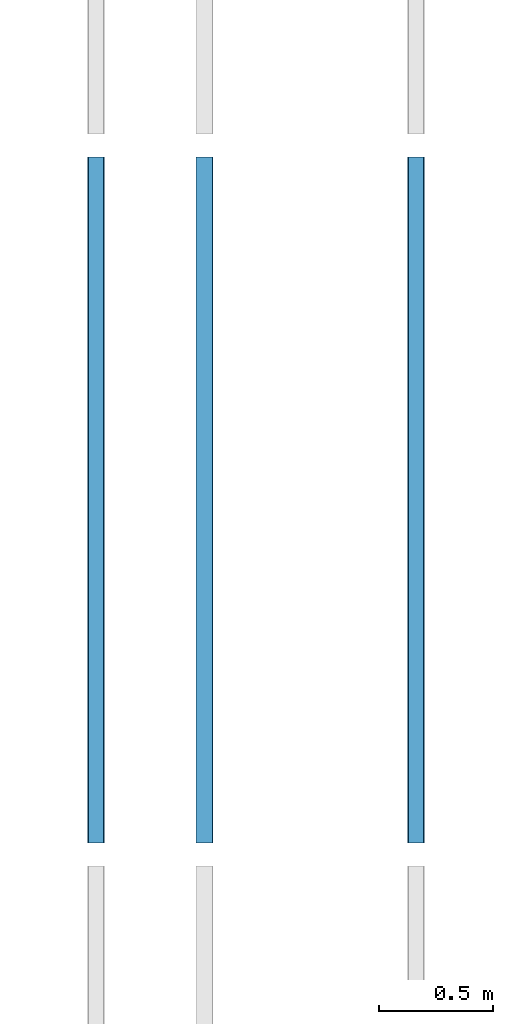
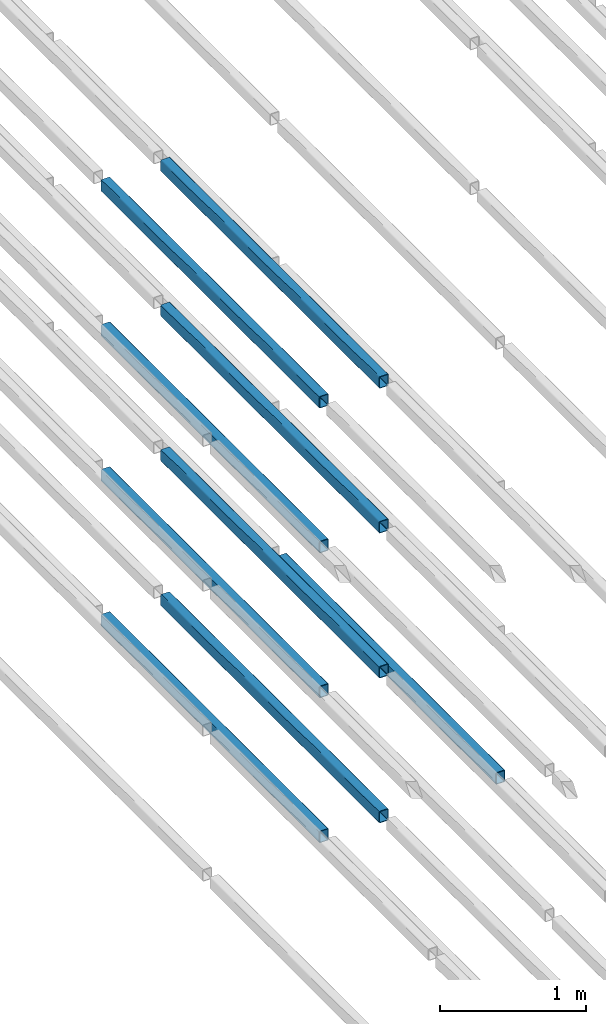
# One storey, part 67 of 290: 9 beams.
"""IFC2X3 building model written with IfcOpenShell, lengths in metres."""

from ifc_helpers import new_model, entity, si_unit, converted_unit, derived_unit, direction, frame, frame_2d, origin, place, context, subcontext, project, spatial, polyline, circle_curve, parameter, trimmed, segment, composite_curve, outline, extrude, material, type_object, element, save


model = new_model("IFC2X3")

# Units and contexts
model_context = context("Model", 3, precision=1e-05, world=origin(), true_north=direction((6.12303176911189e-17, 1.0)))
body_context = subcontext(model_context, "Body", "Model", "MODEL_VIEW")
ifc_project = project(units=[si_unit("LENGTHUNIT", "METRE"), si_unit("AREAUNIT", "SQUARE_METRE"), si_unit("VOLUMEUNIT", "CUBIC_METRE"), converted_unit("PLANEANGLEUNIT", "DEGREE", entity("IfcRatioMeasure", 0.0174532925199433), si_unit("PLANEANGLEUNIT", "RADIAN"), dimensions=[0, 0, 0, 0, 0, 0, 0]), si_unit("MASSUNIT", "GRAM", prefix="KILO"), derived_unit("MASSDENSITYUNIT", [(si_unit("MASSUNIT", "GRAM", prefix="KILO"), 1), (si_unit("LENGTHUNIT", "METRE"), -3)]), derived_unit("MOMENTOFINERTIAUNIT", [(si_unit("LENGTHUNIT", "METRE"), 4)]), si_unit("TIMEUNIT", "SECOND"), si_unit("FREQUENCYUNIT", "HERTZ"), si_unit("THERMODYNAMICTEMPERATUREUNIT", "DEGREE_CELSIUS"), derived_unit("THERMALTRANSMITTANCEUNIT", [(si_unit("MASSUNIT", "GRAM", prefix="KILO"), 1), (si_unit("THERMODYNAMICTEMPERATUREUNIT", "KELVIN"), -1), (si_unit("TIMEUNIT", "SECOND"), -3)]), derived_unit("VOLUMETRICFLOWRATEUNIT", [(si_unit("LENGTHUNIT", "METRE"), 3), (si_unit("TIMEUNIT", "SECOND"), -1)]), si_unit("ELECTRICCURRENTUNIT", "AMPERE"), si_unit("ELECTRICVOLTAGEUNIT", "VOLT"), si_unit("POWERUNIT", "WATT"), si_unit("FORCEUNIT", "NEWTON", prefix="KILO"), si_unit("ILLUMINANCEUNIT", "LUX"), si_unit("LUMINOUSFLUXUNIT", "LUMEN"), si_unit("LUMINOUSINTENSITYUNIT", "CANDELA"), derived_unit("USERDEFINED", [(si_unit("MASSUNIT", "GRAM", prefix="KILO"), -1), (si_unit("LENGTHUNIT", "METRE"), -2), (si_unit("TIMEUNIT", "SECOND"), 3), (si_unit("LUMINOUSFLUXUNIT", "LUMEN"), 1)]), derived_unit("LINEARVELOCITYUNIT", [(si_unit("LENGTHUNIT", "METRE"), 1), (si_unit("TIMEUNIT", "SECOND"), -1)]), si_unit("PRESSUREUNIT", "PASCAL"), derived_unit("USERDEFINED", [(si_unit("LENGTHUNIT", "METRE"), -2), (si_unit("MASSUNIT", "GRAM", prefix="KILO"), 1), (si_unit("TIMEUNIT", "SECOND"), -2)]), derived_unit("LINEARFORCEUNIT", [(si_unit("MASSUNIT", "GRAM", prefix="KILO"), 1), (si_unit("LENGTHUNIT", "METRE"), 1), (si_unit("TIMEUNIT", "SECOND"), -2), (si_unit("LENGTHUNIT", "METRE"), -1)]), derived_unit("PLANARFORCEUNIT", [(si_unit("MASSUNIT", "GRAM", prefix="KILO"), 1), (si_unit("LENGTHUNIT", "METRE"), 1), (si_unit("TIMEUNIT", "SECOND"), -2), (si_unit("LENGTHUNIT", "METRE"), -2)])], contexts=[model_context])

# Site, building, storey
site_placement = place(None, origin())
site = spatial("IfcSite", under=ifc_project, at=site_placement, Name="Default", CompositionType="ELEMENT")
building_placement = place(site_placement, origin())
building = spatial("IfcBuilding", under=site, at=building_placement, CompositionType="ELEMENT")
storey_placement = place(building_placement, frame((0.0, 0.0, 4.0)))
storey = spatial("IfcBuildingStorey", under=building, at=storey_placement, Name="01_OG", CompositionType="ELEMENT", Elevation=4.0)

# Beams
ifc_material = material(Name="Metall - Baustahl S235 blau")
beam_type = type_object("IfcBeamType", Name="RHS Träger (EN 10219-2):RHS 100 x 75 x 5", PredefinedType="NOTDEFINED")
beam_1_placement = place(storey_placement, frame((-189.865111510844, 42.648088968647, -1.2), z_axis=(0.0, 0.0, 1.0), x_axis=(0.0, 1.0, 0.0)))
element("IfcBeam", 1, at=beam_1_placement, inside=storey, type_object=beam_type, material=ifc_material, Name="RHS Träger (EN 10219-2):RHS 100 x 75 x 5", ObjectType="RHS Träger (EN 10219-2):RHS 100 x 75 x 5", context=body_context, shape_type="SweptSolid", body=[
    extrude(outline(composite_curve([segment(polyline([(-0.0400000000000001, -0.0375000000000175), (0.0400000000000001, -0.0375000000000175)]), True, "CONTINUOUS"), segment(trimmed(circle_curve(frame_2d((0.0400000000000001, -0.0275000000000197), x_axis=(0.0, 1.0)), 0.01), [parameter(180.0)], [parameter(270.0)], True, "PARAMETER"), True, "CONTINUOUS"), segment(polyline([(0.05, -0.0275000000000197), (0.05, 0.0274999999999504)]), True, "CONTINUOUS"), segment(trimmed(circle_curve(frame_2d((0.0400000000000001, 0.0274999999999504), x_axis=(0.0, 1.0)), 0.01), [parameter(270.0)], [parameter(4.07110999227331e-13)], True, "PARAMETER"), True, "CONTINUOUS"), segment(polyline([(0.0400000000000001, 0.0374999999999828), (-0.0400000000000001, 0.0374999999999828)]), True, "CONTINUOUS"), segment(trimmed(circle_curve(frame_2d((-0.0400000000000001, 0.0274999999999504), x_axis=(0.0, 1.0)), 0.01), [parameter(360.0)], [parameter(90.0000000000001)], True, "PARAMETER"), True, "CONTINUOUS"), segment(polyline([(-0.05, 0.0274999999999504), (-0.05, -0.0275000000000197)]), True, "CONTINUOUS"), segment(trimmed(circle_curve(frame_2d((-0.0400000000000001, -0.0275000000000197), x_axis=(0.0, 1.0)), 0.01), [parameter(90.0000000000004)], [parameter(180.0)], True, "PARAMETER"), True, "CONTINUOUS")], self_intersect=False), holes=[composite_curve([segment(trimmed(circle_curve(frame_2d((-0.0400000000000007, 0.0274999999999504), x_axis=(0.0, 1.0)), 0.005), [parameter(360.0)], [parameter(89.9999999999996)], True, "PARAMETER"), False, "CONTINUOUS"), segment(polyline([(-0.0400000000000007, 0.0324999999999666), (0.039999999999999, 0.0324999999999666)]), True, "CONTINUOUS"), segment(trimmed(circle_curve(frame_2d((0.039999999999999, 0.0274999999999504), x_axis=(0.0, 1.0)), 0.005), [parameter(270.0)], [parameter(0.0)], True, "PARAMETER"), False, "CONTINUOUS"), segment(polyline([(0.044999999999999, 0.0274999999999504), (0.044999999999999, -0.0275000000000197)]), True, "CONTINUOUS"), segment(trimmed(circle_curve(frame_2d((0.039999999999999, -0.0275000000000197), x_axis=(0.0, 1.0)), 0.005), [parameter(180.0)], [parameter(269.999999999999)], True, "PARAMETER"), False, "CONTINUOUS"), segment(polyline([(0.039999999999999, -0.0325000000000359), (-0.0400000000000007, -0.0325000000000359)]), True, "CONTINUOUS"), segment(trimmed(circle_curve(frame_2d((-0.0400000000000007, -0.0275000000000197), x_axis=(0.0, 1.0)), 0.005), [parameter(90.0000000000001)], [parameter(180.0)], True, "PARAMETER"), False, "CONTINUOUS"), segment(polyline([(-0.0450000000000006, -0.0275000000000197), (-0.0450000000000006, 0.0274999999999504)]), True, "CONTINUOUS")], self_intersect=False)]), frame((0.000100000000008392, -0.0374999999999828, -0.0500000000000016), z_axis=(1.0, 0.0, 0.0), x_axis=(0.0, 0.0, -1.0)), (0.0, 0.0, 1.0), 2.99979999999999),
])
beam_2_placement = place(storey_placement, frame((-189.865111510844, 42.648088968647, 0.0150000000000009), z_axis=(0.0, 0.0, 1.0), x_axis=(0.0, 1.0, 0.0)))
element("IfcBeam", 2, at=beam_2_placement, inside=storey, type_object=beam_type, material=ifc_material, Name="RHS Träger (EN 10219-2):RHS 100 x 75 x 5", ObjectType="RHS Träger (EN 10219-2):RHS 100 x 75 x 5", context=body_context, shape_type="SweptSolid", body=[
    extrude(outline(composite_curve([segment(polyline([(-0.0400000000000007, -0.0375000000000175), (0.0399999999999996, -0.0375000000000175)]), True, "CONTINUOUS"), segment(trimmed(circle_curve(frame_2d((0.0399999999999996, -0.0275000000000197), x_axis=(0.0, 1.0)), 0.01), [parameter(180.0)], [parameter(270.0)], True, "PARAMETER"), True, "CONTINUOUS"), segment(polyline([(0.0499999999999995, -0.0275000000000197), (0.0499999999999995, 0.0274999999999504)]), True, "CONTINUOUS"), segment(trimmed(circle_curve(frame_2d((0.0399999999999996, 0.0274999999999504), x_axis=(0.0, 1.0)), 0.01), [parameter(270.0)], [parameter(4.07110999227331e-13)], True, "PARAMETER"), True, "CONTINUOUS"), segment(polyline([(0.0399999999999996, 0.0374999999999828), (-0.0400000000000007, 0.0374999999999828)]), True, "CONTINUOUS"), segment(trimmed(circle_curve(frame_2d((-0.0400000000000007, 0.0274999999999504), x_axis=(0.0, 1.0)), 0.01), [parameter(360.0)], [parameter(90.0000000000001)], True, "PARAMETER"), True, "CONTINUOUS"), segment(polyline([(-0.0500000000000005, 0.0274999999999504), (-0.0500000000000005, -0.0275000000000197)]), True, "CONTINUOUS"), segment(trimmed(circle_curve(frame_2d((-0.0400000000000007, -0.0275000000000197), x_axis=(0.0, 1.0)), 0.01), [parameter(90.0000000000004)], [parameter(180.0)], True, "PARAMETER"), True, "CONTINUOUS")], self_intersect=False), holes=[composite_curve([segment(trimmed(circle_curve(frame_2d((-0.0400000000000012, 0.0274999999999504), x_axis=(0.0, 1.0)), 0.005), [parameter(360.0)], [parameter(89.9999999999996)], True, "PARAMETER"), False, "CONTINUOUS"), segment(polyline([(-0.0400000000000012, 0.0324999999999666), (0.0399999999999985, 0.0324999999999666)]), True, "CONTINUOUS"), segment(trimmed(circle_curve(frame_2d((0.0399999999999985, 0.0274999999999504), x_axis=(0.0, 1.0)), 0.005), [parameter(270.0)], [parameter(0.0)], True, "PARAMETER"), False, "CONTINUOUS"), segment(polyline([(0.0449999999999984, 0.0274999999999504), (0.0449999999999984, -0.0275000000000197)]), True, "CONTINUOUS"), segment(trimmed(circle_curve(frame_2d((0.0399999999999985, -0.0275000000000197), x_axis=(0.0, 1.0)), 0.005), [parameter(180.0)], [parameter(269.999999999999)], True, "PARAMETER"), False, "CONTINUOUS"), segment(polyline([(0.0399999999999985, -0.0325000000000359), (-0.0400000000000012, -0.0325000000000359)]), True, "CONTINUOUS"), segment(trimmed(circle_curve(frame_2d((-0.0400000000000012, -0.0275000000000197), x_axis=(0.0, 1.0)), 0.005), [parameter(90.0000000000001)], [parameter(180.0)], True, "PARAMETER"), False, "CONTINUOUS"), segment(polyline([(-0.0450000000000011, -0.0275000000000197), (-0.0450000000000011, 0.0274999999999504)]), True, "CONTINUOUS")], self_intersect=False)]), frame((0.000100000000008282, -0.0374999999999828, -0.0500000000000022), z_axis=(1.0, 0.0, 0.0), x_axis=(0.0, 0.0, -1.0)), (0.0, 0.0, 1.0), 2.99979999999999),
])
beam_3_placement = place(storey_placement, frame((-189.865111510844, 42.648088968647, 1.23), z_axis=(0.0, 0.0, 1.0), x_axis=(0.0, 1.0, 0.0)))
element("IfcBeam", 3, at=beam_3_placement, inside=storey, type_object=beam_type, material=ifc_material, Name="RHS Träger (EN 10219-2):RHS 100 x 75 x 5", ObjectType="RHS Träger (EN 10219-2):RHS 100 x 75 x 5", context=body_context, shape_type="SweptSolid", body=[
    extrude(outline(composite_curve([segment(polyline([(-0.0399999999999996, -0.0375000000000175), (0.0399999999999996, -0.0375000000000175)]), True, "CONTINUOUS"), segment(trimmed(circle_curve(frame_2d((0.0399999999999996, -0.0275000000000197), x_axis=(0.0, 1.0)), 0.01), [parameter(180.0)], [parameter(270.0)], True, "PARAMETER"), True, "CONTINUOUS"), segment(polyline([(0.0500000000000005, -0.0275000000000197), (0.0500000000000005, 0.0274999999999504)]), True, "CONTINUOUS"), segment(trimmed(circle_curve(frame_2d((0.0399999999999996, 0.0274999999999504), x_axis=(0.0, 1.0)), 0.01), [parameter(270.0)], [parameter(4.07110999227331e-13)], True, "PARAMETER"), True, "CONTINUOUS"), segment(polyline([(0.0399999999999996, 0.0374999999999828), (-0.0399999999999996, 0.0374999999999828)]), True, "CONTINUOUS"), segment(trimmed(circle_curve(frame_2d((-0.0399999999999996, 0.0274999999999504), x_axis=(0.0, 1.0)), 0.01), [parameter(360.0)], [parameter(90.0000000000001)], True, "PARAMETER"), True, "CONTINUOUS"), segment(polyline([(-0.0499999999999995, 0.0274999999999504), (-0.0499999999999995, -0.0275000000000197)]), True, "CONTINUOUS"), segment(trimmed(circle_curve(frame_2d((-0.0399999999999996, -0.0275000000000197), x_axis=(0.0, 1.0)), 0.01), [parameter(90.0000000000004)], [parameter(180.0)], True, "PARAMETER"), True, "CONTINUOUS")], self_intersect=False), holes=[composite_curve([segment(trimmed(circle_curve(frame_2d((-0.0400000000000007, 0.0274999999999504), x_axis=(0.0, 1.0)), 0.005), [parameter(360.0)], [parameter(89.9999999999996)], True, "PARAMETER"), False, "CONTINUOUS"), segment(polyline([(-0.0400000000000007, 0.0324999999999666), (0.0399999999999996, 0.0324999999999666)]), True, "CONTINUOUS"), segment(trimmed(circle_curve(frame_2d((0.0399999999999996, 0.0274999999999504), x_axis=(0.0, 1.0)), 0.005), [parameter(270.0)], [parameter(0.0)], True, "PARAMETER"), False, "CONTINUOUS"), segment(polyline([(0.0449999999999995, 0.0274999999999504), (0.0449999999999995, -0.0275000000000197)]), True, "CONTINUOUS"), segment(trimmed(circle_curve(frame_2d((0.0399999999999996, -0.0275000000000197), x_axis=(0.0, 1.0)), 0.005), [parameter(180.0)], [parameter(269.999999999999)], True, "PARAMETER"), False, "CONTINUOUS"), segment(polyline([(0.0399999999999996, -0.0325000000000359), (-0.0400000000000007, -0.0325000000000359)]), True, "CONTINUOUS"), segment(trimmed(circle_curve(frame_2d((-0.0400000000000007, -0.0275000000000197), x_axis=(0.0, 1.0)), 0.005), [parameter(90.0000000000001)], [parameter(180.0)], True, "PARAMETER"), False, "CONTINUOUS"), segment(polyline([(-0.0450000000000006, -0.0275000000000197), (-0.0450000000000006, 0.0274999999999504)]), True, "CONTINUOUS")], self_intersect=False)]), frame((0.000100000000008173, -0.0374999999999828, -0.0500000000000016), z_axis=(1.0, 0.0, 0.0), x_axis=(0.0, 0.0, -1.0)), (0.0, 0.0, 1.0), 2.99979999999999),
])
beam_4_placement = place(storey_placement, frame((-189.865111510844, 42.648088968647, 2.445), z_axis=(0.0, 0.0, 1.0), x_axis=(0.0, 1.0, 0.0)))
element("IfcBeam", 4, at=beam_4_placement, inside=storey, type_object=beam_type, material=ifc_material, Name="RHS Träger (EN 10219-2):RHS 100 x 75 x 5", ObjectType="RHS Träger (EN 10219-2):RHS 100 x 75 x 5", context=body_context, shape_type="SweptSolid", body=[
    extrude(outline(composite_curve([segment(polyline([(-0.0399999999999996, -0.0375000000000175), (0.0399999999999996, -0.0375000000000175)]), True, "CONTINUOUS"), segment(trimmed(circle_curve(frame_2d((0.0399999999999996, -0.0275000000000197), x_axis=(0.0, 1.0)), 0.01), [parameter(180.0)], [parameter(270.0)], True, "PARAMETER"), True, "CONTINUOUS"), segment(polyline([(0.0500000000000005, -0.0275000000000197), (0.0500000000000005, 0.0274999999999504)]), True, "CONTINUOUS"), segment(trimmed(circle_curve(frame_2d((0.0399999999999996, 0.0274999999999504), x_axis=(0.0, 1.0)), 0.01), [parameter(270.0)], [parameter(4.07110999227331e-13)], True, "PARAMETER"), True, "CONTINUOUS"), segment(polyline([(0.0399999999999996, 0.0374999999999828), (-0.0399999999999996, 0.0374999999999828)]), True, "CONTINUOUS"), segment(trimmed(circle_curve(frame_2d((-0.0399999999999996, 0.0274999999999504), x_axis=(0.0, 1.0)), 0.01), [parameter(360.0)], [parameter(90.0000000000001)], True, "PARAMETER"), True, "CONTINUOUS"), segment(polyline([(-0.0499999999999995, 0.0274999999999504), (-0.0499999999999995, -0.0275000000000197)]), True, "CONTINUOUS"), segment(trimmed(circle_curve(frame_2d((-0.0399999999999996, -0.0275000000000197), x_axis=(0.0, 1.0)), 0.01), [parameter(90.0000000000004)], [parameter(180.0)], True, "PARAMETER"), True, "CONTINUOUS")], self_intersect=False), holes=[composite_curve([segment(trimmed(circle_curve(frame_2d((-0.0400000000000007, 0.0274999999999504), x_axis=(0.0, 1.0)), 0.005), [parameter(360.0)], [parameter(89.9999999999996)], True, "PARAMETER"), False, "CONTINUOUS"), segment(polyline([(-0.0400000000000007, 0.0324999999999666), (0.0399999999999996, 0.0324999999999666)]), True, "CONTINUOUS"), segment(trimmed(circle_curve(frame_2d((0.0399999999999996, 0.0274999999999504), x_axis=(0.0, 1.0)), 0.005), [parameter(270.0)], [parameter(0.0)], True, "PARAMETER"), False, "CONTINUOUS"), segment(polyline([(0.0449999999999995, 0.0274999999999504), (0.0449999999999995, -0.0275000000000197)]), True, "CONTINUOUS"), segment(trimmed(circle_curve(frame_2d((0.0399999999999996, -0.0275000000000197), x_axis=(0.0, 1.0)), 0.005), [parameter(180.0)], [parameter(269.999999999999)], True, "PARAMETER"), False, "CONTINUOUS"), segment(polyline([(0.0399999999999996, -0.0325000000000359), (-0.0400000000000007, -0.0325000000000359)]), True, "CONTINUOUS"), segment(trimmed(circle_curve(frame_2d((-0.0400000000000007, -0.0275000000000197), x_axis=(0.0, 1.0)), 0.005), [parameter(90.0000000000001)], [parameter(180.0)], True, "PARAMETER"), False, "CONTINUOUS"), segment(polyline([(-0.0450000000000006, -0.0275000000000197), (-0.0450000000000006, 0.0274999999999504)]), True, "CONTINUOUS")], self_intersect=False)]), frame((0.000100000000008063, -0.0374999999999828, -0.0500000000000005), z_axis=(1.0, 0.0, 0.0), x_axis=(0.0, 0.0, -1.0)), (0.0, 0.0, 1.0), 2.99979999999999),
])
beam_5_placement = place(storey_placement, frame((-189.315111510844, 42.648088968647, -1.2), z_axis=(0.0, 0.0, 1.0), x_axis=(0.0, 1.0, 0.0)))
element("IfcBeam", 5, at=beam_5_placement, inside=storey, type_object=beam_type, material=ifc_material, Name="RHS Träger (EN 10219-2):RHS 100 x 75 x 5", ObjectType="RHS Träger (EN 10219-2):RHS 100 x 75 x 5", context=body_context, shape_type="SweptSolid", body=[
    extrude(outline(composite_curve([segment(trimmed(circle_curve(frame_2d((-0.0274999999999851, -0.0400000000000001), x_axis=(1.0, 0.0)), 0.01), [parameter(180.0)], [parameter(270.0)], True, "PARAMETER"), True, "CONTINUOUS"), segment(polyline([(-0.0274999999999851, -0.05), (0.0274999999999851, -0.05)]), True, "CONTINUOUS"), segment(trimmed(circle_curve(frame_2d((0.0274999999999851, -0.0400000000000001), x_axis=(1.0, 0.0)), 0.01), [parameter(270.0)], [parameter(5.08888749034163e-14)], True, "PARAMETER"), True, "CONTINUOUS"), segment(polyline([(0.0375000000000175, -0.0400000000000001), (0.0375000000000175, 0.0400000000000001)]), True, "CONTINUOUS"), segment(trimmed(circle_curve(frame_2d((0.0274999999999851, 0.0400000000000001), x_axis=(1.0, 0.0)), 0.01), [parameter(360.0)], [parameter(89.9999999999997)], True, "PARAMETER"), True, "CONTINUOUS"), segment(polyline([(0.0274999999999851, 0.05), (-0.0274999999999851, 0.05)]), True, "CONTINUOUS"), segment(trimmed(circle_curve(frame_2d((-0.0274999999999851, 0.0400000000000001), x_axis=(1.0, 0.0)), 0.01), [parameter(90.0000000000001)], [parameter(180.0)], True, "PARAMETER"), True, "CONTINUOUS"), segment(polyline([(-0.0374999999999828, 0.0400000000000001), (-0.0374999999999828, -0.0400000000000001)]), True, "CONTINUOUS")], self_intersect=False), holes=[composite_curve([segment(polyline([(0.0274999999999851, -0.0450000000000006), (-0.0274999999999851, -0.0450000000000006)]), True, "CONTINUOUS"), segment(trimmed(circle_curve(frame_2d((-0.0274999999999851, -0.0400000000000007), x_axis=(1.0, 0.0)), 0.005), [parameter(180.0)], [parameter(270.0)], True, "PARAMETER"), False, "CONTINUOUS"), segment(polyline([(-0.0325000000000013, -0.0400000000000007), (-0.0325000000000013, 0.039999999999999)]), True, "CONTINUOUS"), segment(trimmed(circle_curve(frame_2d((-0.0274999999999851, 0.039999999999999), x_axis=(1.0, 0.0)), 0.005), [parameter(90.0000000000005)], [parameter(180.0)], True, "PARAMETER"), False, "CONTINUOUS"), segment(polyline([(-0.0274999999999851, 0.044999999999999), (0.0274999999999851, 0.044999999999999)]), True, "CONTINUOUS"), segment(trimmed(circle_curve(frame_2d((0.0274999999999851, 0.039999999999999), x_axis=(1.0, 0.0)), 0.005), [parameter(0.0)], [parameter(90.0000000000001)], True, "PARAMETER"), False, "CONTINUOUS"), segment(polyline([(0.0325000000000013, 0.039999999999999), (0.0325000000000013, -0.0400000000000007)]), True, "CONTINUOUS"), segment(trimmed(circle_curve(frame_2d((0.0274999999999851, -0.0400000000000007), x_axis=(1.0, 0.0)), 0.005), [parameter(270.0)], [parameter(4.07110999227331e-13)], True, "PARAMETER"), False, "CONTINUOUS")], self_intersect=False)]), frame((0.000100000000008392, 0.0375000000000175, -0.0500000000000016), z_axis=(1.0, 0.0, 0.0), x_axis=(0.0, -1.0, 0.0)), (0.0, 0.0, 1.0), 2.99979999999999),
])
beam_6_placement = place(storey_placement, frame((-189.315111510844, 42.648088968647, 0.0150000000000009), z_axis=(0.0, 0.0, 1.0), x_axis=(0.0, 1.0, 0.0)))
element("IfcBeam", 6, at=beam_6_placement, inside=storey, type_object=beam_type, material=ifc_material, Name="RHS Träger (EN 10219-2):RHS 100 x 75 x 5", ObjectType="RHS Träger (EN 10219-2):RHS 100 x 75 x 5", context=body_context, shape_type="SweptSolid", body=[
    extrude(outline(composite_curve([segment(trimmed(circle_curve(frame_2d((-0.0274999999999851, -0.0400000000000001), x_axis=(1.0, 0.0)), 0.01), [parameter(180.0)], [parameter(270.0)], True, "PARAMETER"), True, "CONTINUOUS"), segment(polyline([(-0.0274999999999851, -0.05), (0.0274999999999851, -0.05)]), True, "CONTINUOUS"), segment(trimmed(circle_curve(frame_2d((0.0274999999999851, -0.0400000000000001), x_axis=(1.0, 0.0)), 0.01), [parameter(270.0)], [parameter(5.08888749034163e-14)], True, "PARAMETER"), True, "CONTINUOUS"), segment(polyline([(0.0375000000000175, -0.0400000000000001), (0.0375000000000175, 0.0400000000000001)]), True, "CONTINUOUS"), segment(trimmed(circle_curve(frame_2d((0.0274999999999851, 0.0400000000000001), x_axis=(1.0, 0.0)), 0.01), [parameter(360.0)], [parameter(89.9999999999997)], True, "PARAMETER"), True, "CONTINUOUS"), segment(polyline([(0.0274999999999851, 0.05), (-0.0274999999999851, 0.05)]), True, "CONTINUOUS"), segment(trimmed(circle_curve(frame_2d((-0.0274999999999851, 0.0400000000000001), x_axis=(1.0, 0.0)), 0.01), [parameter(90.0000000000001)], [parameter(180.0)], True, "PARAMETER"), True, "CONTINUOUS"), segment(polyline([(-0.0374999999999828, 0.0400000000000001), (-0.0374999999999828, -0.0400000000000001)]), True, "CONTINUOUS")], self_intersect=False), holes=[composite_curve([segment(polyline([(0.0274999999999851, -0.0450000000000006), (-0.0274999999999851, -0.0450000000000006)]), True, "CONTINUOUS"), segment(trimmed(circle_curve(frame_2d((-0.0274999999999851, -0.0400000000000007), x_axis=(1.0, 0.0)), 0.005), [parameter(180.0)], [parameter(270.0)], True, "PARAMETER"), False, "CONTINUOUS"), segment(polyline([(-0.0325000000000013, -0.0400000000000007), (-0.0325000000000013, 0.039999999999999)]), True, "CONTINUOUS"), segment(trimmed(circle_curve(frame_2d((-0.0274999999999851, 0.039999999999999), x_axis=(1.0, 0.0)), 0.005), [parameter(90.0000000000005)], [parameter(180.0)], True, "PARAMETER"), False, "CONTINUOUS"), segment(polyline([(-0.0274999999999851, 0.044999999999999), (0.0274999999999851, 0.044999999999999)]), True, "CONTINUOUS"), segment(trimmed(circle_curve(frame_2d((0.0274999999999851, 0.039999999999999), x_axis=(1.0, 0.0)), 0.005), [parameter(0.0)], [parameter(90.0000000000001)], True, "PARAMETER"), False, "CONTINUOUS"), segment(polyline([(0.0325000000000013, 0.039999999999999), (0.0325000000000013, -0.0400000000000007)]), True, "CONTINUOUS"), segment(trimmed(circle_curve(frame_2d((0.0274999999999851, -0.0400000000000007), x_axis=(1.0, 0.0)), 0.005), [parameter(270.0)], [parameter(4.07110999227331e-13)], True, "PARAMETER"), False, "CONTINUOUS")], self_intersect=False)]), frame((0.000100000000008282, 0.0375000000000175, -0.0500000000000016), z_axis=(1.0, 0.0, 0.0), x_axis=(0.0, -1.0, 0.0)), (0.0, 0.0, 1.0), 2.99979999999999),
])
beam_7_placement = place(storey_placement, frame((-189.315111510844, 42.648088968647, 1.23), z_axis=(0.0, 0.0, 1.0), x_axis=(0.0, 1.0, 0.0)))
element("IfcBeam", 7, at=beam_7_placement, inside=storey, type_object=beam_type, material=ifc_material, Name="RHS Träger (EN 10219-2):RHS 100 x 75 x 5", ObjectType="RHS Träger (EN 10219-2):RHS 100 x 75 x 5", context=body_context, shape_type="SweptSolid", body=[
    extrude(outline(composite_curve([segment(trimmed(circle_curve(frame_2d((-0.0274999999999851, -0.0399999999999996), x_axis=(1.0, 0.0)), 0.01), [parameter(180.0)], [parameter(270.0)], True, "PARAMETER"), True, "CONTINUOUS"), segment(polyline([(-0.0274999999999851, -0.0499999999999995), (0.0274999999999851, -0.0499999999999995)]), True, "CONTINUOUS"), segment(trimmed(circle_curve(frame_2d((0.0274999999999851, -0.0399999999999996), x_axis=(1.0, 0.0)), 0.01), [parameter(270.0)], [parameter(5.08888749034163e-14)], True, "PARAMETER"), True, "CONTINUOUS"), segment(polyline([(0.0375000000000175, -0.0399999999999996), (0.0375000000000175, 0.0399999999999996)]), True, "CONTINUOUS"), segment(trimmed(circle_curve(frame_2d((0.0274999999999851, 0.0399999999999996), x_axis=(1.0, 0.0)), 0.01), [parameter(360.0)], [parameter(89.9999999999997)], True, "PARAMETER"), True, "CONTINUOUS"), segment(polyline([(0.0274999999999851, 0.0500000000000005), (-0.0274999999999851, 0.0500000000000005)]), True, "CONTINUOUS"), segment(trimmed(circle_curve(frame_2d((-0.0274999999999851, 0.0399999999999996), x_axis=(1.0, 0.0)), 0.01), [parameter(90.0000000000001)], [parameter(180.0)], True, "PARAMETER"), True, "CONTINUOUS"), segment(polyline([(-0.0374999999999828, 0.0399999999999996), (-0.0374999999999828, -0.0399999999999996)]), True, "CONTINUOUS")], self_intersect=False), holes=[composite_curve([segment(polyline([(0.0274999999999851, -0.0450000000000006), (-0.0274999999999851, -0.0450000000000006)]), True, "CONTINUOUS"), segment(trimmed(circle_curve(frame_2d((-0.0274999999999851, -0.0400000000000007), x_axis=(1.0, 0.0)), 0.005), [parameter(180.0)], [parameter(270.0)], True, "PARAMETER"), False, "CONTINUOUS"), segment(polyline([(-0.0325000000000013, -0.0400000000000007), (-0.0325000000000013, 0.0399999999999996)]), True, "CONTINUOUS"), segment(trimmed(circle_curve(frame_2d((-0.0274999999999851, 0.0399999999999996), x_axis=(1.0, 0.0)), 0.005), [parameter(90.0000000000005)], [parameter(180.0)], True, "PARAMETER"), False, "CONTINUOUS"), segment(polyline([(-0.0274999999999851, 0.0449999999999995), (0.0274999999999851, 0.0449999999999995)]), True, "CONTINUOUS"), segment(trimmed(circle_curve(frame_2d((0.0274999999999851, 0.0399999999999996), x_axis=(1.0, 0.0)), 0.005), [parameter(0.0)], [parameter(90.0000000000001)], True, "PARAMETER"), False, "CONTINUOUS"), segment(polyline([(0.0325000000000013, 0.0399999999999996), (0.0325000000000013, -0.0400000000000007)]), True, "CONTINUOUS"), segment(trimmed(circle_curve(frame_2d((0.0274999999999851, -0.0400000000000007), x_axis=(1.0, 0.0)), 0.005), [parameter(270.0)], [parameter(4.07110999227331e-13)], True, "PARAMETER"), False, "CONTINUOUS")], self_intersect=False)]), frame((0.000100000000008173, 0.0375000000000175, -0.0500000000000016), z_axis=(1.0, 0.0, 0.0), x_axis=(0.0, -1.0, 0.0)), (0.0, 0.0, 1.0), 2.99979999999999),
])
beam_8_placement = place(storey_placement, frame((-189.315111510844, 42.648088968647, 2.445), z_axis=(0.0, 0.0, 1.0), x_axis=(0.0, 1.0, 0.0)))
element("IfcBeam", 8, at=beam_8_placement, inside=storey, type_object=beam_type, material=ifc_material, Name="RHS Träger (EN 10219-2):RHS 100 x 75 x 5", ObjectType="RHS Träger (EN 10219-2):RHS 100 x 75 x 5", context=body_context, shape_type="SweptSolid", body=[
    extrude(outline(composite_curve([segment(trimmed(circle_curve(frame_2d((-0.0274999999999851, -0.0399999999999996), x_axis=(1.0, 0.0)), 0.01), [parameter(180.0)], [parameter(270.0)], True, "PARAMETER"), True, "CONTINUOUS"), segment(polyline([(-0.0274999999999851, -0.0499999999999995), (0.0274999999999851, -0.0499999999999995)]), True, "CONTINUOUS"), segment(trimmed(circle_curve(frame_2d((0.0274999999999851, -0.0399999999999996), x_axis=(1.0, 0.0)), 0.01), [parameter(270.0)], [parameter(5.08888749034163e-14)], True, "PARAMETER"), True, "CONTINUOUS"), segment(polyline([(0.0375000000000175, -0.0399999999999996), (0.0375000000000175, 0.0399999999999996)]), True, "CONTINUOUS"), segment(trimmed(circle_curve(frame_2d((0.0274999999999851, 0.0399999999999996), x_axis=(1.0, 0.0)), 0.01), [parameter(360.0)], [parameter(89.9999999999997)], True, "PARAMETER"), True, "CONTINUOUS"), segment(polyline([(0.0274999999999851, 0.0500000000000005), (-0.0274999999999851, 0.0500000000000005)]), True, "CONTINUOUS"), segment(trimmed(circle_curve(frame_2d((-0.0274999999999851, 0.0399999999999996), x_axis=(1.0, 0.0)), 0.01), [parameter(90.0000000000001)], [parameter(180.0)], True, "PARAMETER"), True, "CONTINUOUS"), segment(polyline([(-0.0374999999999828, 0.0399999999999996), (-0.0374999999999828, -0.0399999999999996)]), True, "CONTINUOUS")], self_intersect=False), holes=[composite_curve([segment(polyline([(0.0274999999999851, -0.0450000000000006), (-0.0274999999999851, -0.0450000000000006)]), True, "CONTINUOUS"), segment(trimmed(circle_curve(frame_2d((-0.0274999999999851, -0.0400000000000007), x_axis=(1.0, 0.0)), 0.005), [parameter(180.0)], [parameter(270.0)], True, "PARAMETER"), False, "CONTINUOUS"), segment(polyline([(-0.0325000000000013, -0.0400000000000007), (-0.0325000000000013, 0.0399999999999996)]), True, "CONTINUOUS"), segment(trimmed(circle_curve(frame_2d((-0.0274999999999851, 0.0399999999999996), x_axis=(1.0, 0.0)), 0.005), [parameter(90.0000000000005)], [parameter(180.0)], True, "PARAMETER"), False, "CONTINUOUS"), segment(polyline([(-0.0274999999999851, 0.0449999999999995), (0.0274999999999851, 0.0449999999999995)]), True, "CONTINUOUS"), segment(trimmed(circle_curve(frame_2d((0.0274999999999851, 0.0399999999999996), x_axis=(1.0, 0.0)), 0.005), [parameter(0.0)], [parameter(90.0000000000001)], True, "PARAMETER"), False, "CONTINUOUS"), segment(polyline([(0.0325000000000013, 0.0399999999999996), (0.0325000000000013, -0.0400000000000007)]), True, "CONTINUOUS"), segment(trimmed(circle_curve(frame_2d((0.0274999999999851, -0.0400000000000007), x_axis=(1.0, 0.0)), 0.005), [parameter(270.0)], [parameter(4.07110999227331e-13)], True, "PARAMETER"), False, "CONTINUOUS")], self_intersect=False)]), frame((0.000100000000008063, 0.0375000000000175, -0.0500000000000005), z_axis=(1.0, 0.0, 0.0), x_axis=(0.0, -1.0, 0.0)), (0.0, 0.0, 1.0), 2.99979999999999),
])
beam_9_placement = place(storey_placement, frame((-188.465111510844, 42.648088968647, -1.2), z_axis=(0.0, 0.0, 1.0), x_axis=(0.0, 1.0, 0.0)))
element("IfcBeam", 9, at=beam_9_placement, inside=storey, type_object=beam_type, material=ifc_material, Name="RHS Träger (EN 10219-2):RHS 100 x 75 x 5", ObjectType="RHS Träger (EN 10219-2):RHS 100 x 75 x 5", context=body_context, shape_type="SweptSolid", body=[
    extrude(outline(composite_curve([segment(polyline([(-0.0400000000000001, -0.0374999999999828), (0.0400000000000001, -0.0374999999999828)]), True, "CONTINUOUS"), segment(trimmed(circle_curve(frame_2d((0.0400000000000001, -0.0274999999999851), x_axis=(0.0, 1.0)), 0.01), [parameter(180.0)], [parameter(270.0)], True, "PARAMETER"), True, "CONTINUOUS"), segment(polyline([(0.05, -0.0274999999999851), (0.05, 0.0274999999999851)]), True, "CONTINUOUS"), segment(trimmed(circle_curve(frame_2d((0.0400000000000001, 0.0274999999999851), x_axis=(0.0, 1.0)), 0.01), [parameter(270.0)], [parameter(4.07110999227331e-13)], True, "PARAMETER"), True, "CONTINUOUS"), segment(polyline([(0.0400000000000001, 0.0375000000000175), (-0.0400000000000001, 0.0375000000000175)]), True, "CONTINUOUS"), segment(trimmed(circle_curve(frame_2d((-0.0400000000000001, 0.0274999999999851), x_axis=(0.0, 1.0)), 0.01), [parameter(360.0)], [parameter(90.0000000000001)], True, "PARAMETER"), True, "CONTINUOUS"), segment(polyline([(-0.05, 0.0274999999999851), (-0.05, -0.0274999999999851)]), True, "CONTINUOUS"), segment(trimmed(circle_curve(frame_2d((-0.0400000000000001, -0.0274999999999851), x_axis=(0.0, 1.0)), 0.01), [parameter(90.0000000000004)], [parameter(180.0)], True, "PARAMETER"), True, "CONTINUOUS")], self_intersect=False), holes=[composite_curve([segment(trimmed(circle_curve(frame_2d((-0.0400000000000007, 0.0274999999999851), x_axis=(0.0, 1.0)), 0.005), [parameter(360.0)], [parameter(89.9999999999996)], True, "PARAMETER"), False, "CONTINUOUS"), segment(polyline([(-0.0400000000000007, 0.0325000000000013), (0.039999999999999, 0.0325000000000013)]), True, "CONTINUOUS"), segment(trimmed(circle_curve(frame_2d((0.039999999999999, 0.0274999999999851), x_axis=(0.0, 1.0)), 0.005), [parameter(270.0)], [parameter(0.0)], True, "PARAMETER"), False, "CONTINUOUS"), segment(polyline([(0.044999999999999, 0.0274999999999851), (0.044999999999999, -0.0274999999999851)]), True, "CONTINUOUS"), segment(trimmed(circle_curve(frame_2d((0.039999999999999, -0.0274999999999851), x_axis=(0.0, 1.0)), 0.005), [parameter(180.0)], [parameter(269.999999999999)], True, "PARAMETER"), False, "CONTINUOUS"), segment(polyline([(0.039999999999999, -0.0325000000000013), (-0.0400000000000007, -0.0325000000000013)]), True, "CONTINUOUS"), segment(trimmed(circle_curve(frame_2d((-0.0400000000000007, -0.0274999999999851), x_axis=(0.0, 1.0)), 0.005), [parameter(90.0000000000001)], [parameter(180.0)], True, "PARAMETER"), False, "CONTINUOUS"), segment(polyline([(-0.0450000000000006, -0.0274999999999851), (-0.0450000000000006, 0.0274999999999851)]), True, "CONTINUOUS")], self_intersect=False)]), frame((0.000100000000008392, -0.0375000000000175, -0.0500000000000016), z_axis=(1.0, 0.0, 0.0), x_axis=(0.0, 0.0, -1.0)), (0.0, 0.0, 1.0), 2.99979999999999),
])

save(model, "model.ifc")
